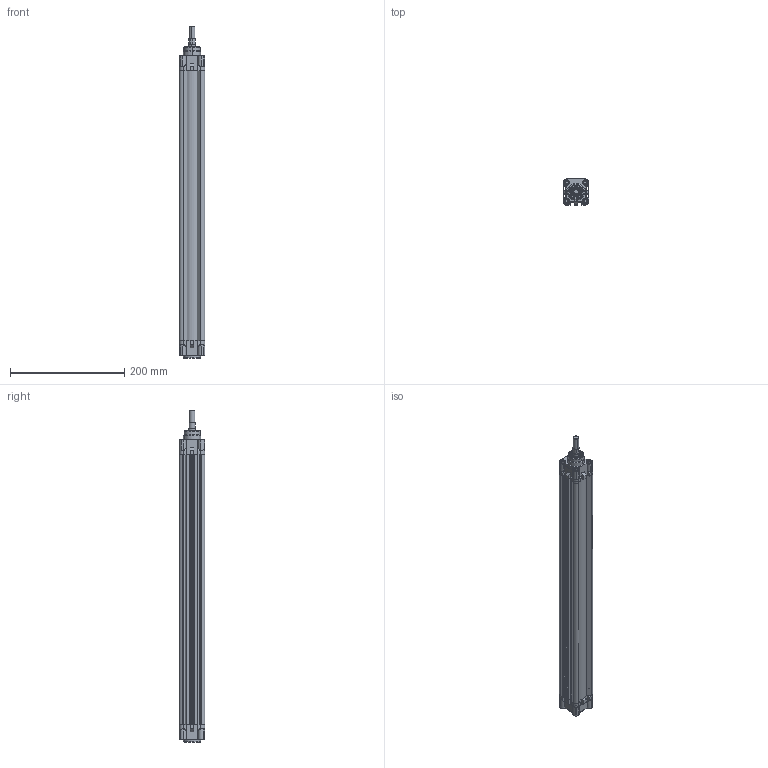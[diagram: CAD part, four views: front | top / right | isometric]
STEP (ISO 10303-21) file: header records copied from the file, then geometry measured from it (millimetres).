
FILE_DESCRIPTION (( 'STEP AP214' ), '1' );
FILE_NAME ('RIC_32_450_MY_WEB.STEP', '2020-07-18T17:21:12', ( '' ), ( '' ), 'SwSTEP 2.0', 'SolidWorks 2018', '' );
FILE_SCHEMA (( 'AUTOMOTIVE_DESIGN' ));
Length unit declared in the file: millimetre
Products named in the file (8): 32_BORU_WEB; ric32kecemil; 12_K_MIL_WEB_RIC32-25; 32arkakapak; RIC_32_450_MY_WEB; ric32bogazkecesi; m6kapakcivatasi; 32önkapak
Assembly tree (14 placements, depth 3):
  RIC_32_450_MY_WEB
    32_BORU_WEB
    32arkakapak
    32önkapak
    m6kapakcivatasi  x8
    ric32kecemil
      12_K_MIL_WEB_RIC32-25
    ric32bogazkecesi
Bounding box: 45 x 45.2 x 580.4 mm (x, y, z)
Volume: 465712.7 mm3; surface area: 250964.5 mm2
Topology: 13 solids, 13 shells, 783 faces, 1897 edges, 1206 vertices
Faces by surface type: plane 429, cylinder 194, cone 98, bspline 56, torus 6
Entity records: 22770 total; most frequent: CARTESIAN_POINT 6503, ORIENTED_EDGE 3010, DIRECTION 2881, EDGE_CURVE 1505, VERTEX_POINT 968, LINE 965, VECTOR 965, AXIS2_PLACEMENT_3D 958
